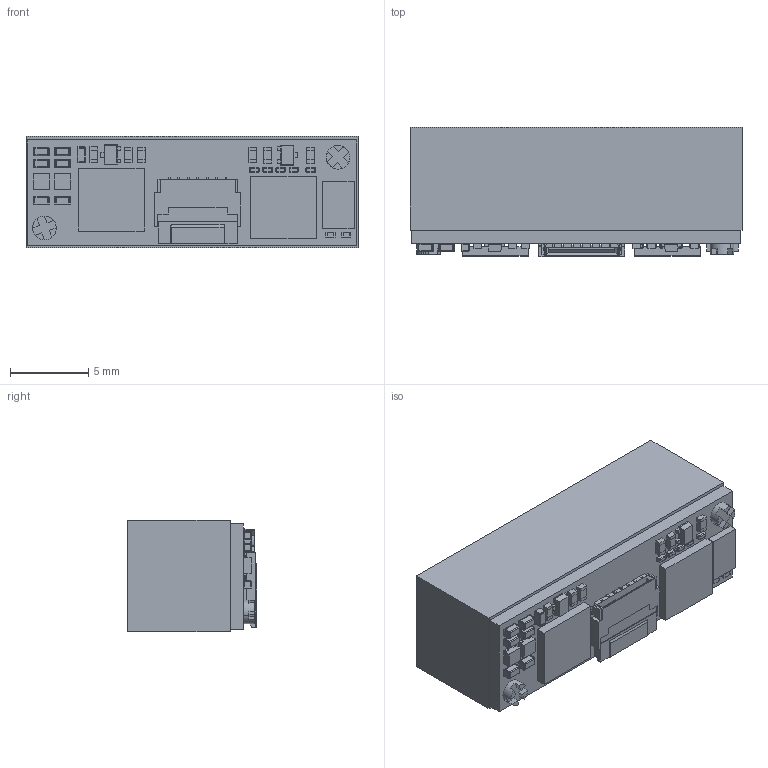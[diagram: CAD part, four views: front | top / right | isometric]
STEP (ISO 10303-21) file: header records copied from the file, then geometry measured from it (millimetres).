
FILE_DESCRIPTION((''),'2;1');
FILE_NAME('ASM0006_ASM','2024-06-24T',('liaolinqing'),(''),'PRO/ENGINEER BY PARAMETRIC TECHNOLOGY CORPORATION, 2008380','PRO/ENGINEER BY PARAMETRIC TECHNOLOGY CORPORATION, 2008380','');
FILE_SCHEMA(('CONFIG_CONTROL_DESIGN'));
Length unit declared in the file: millimetre
Products named in the file (2): BODY_1; ASM0006_ASM
Assembly tree (1 placements, depth 2):
  ASM0006_ASM
    BODY_1
Bounding box: 21.15 x 8.24 x 7.07 mm (x, y, z)
Surface area: 1081.1 mm2 (no closed solid volume)
Topology: 0 solids, 36 shells, 622 faces, 1899 edges, 1258 vertices
Faces by surface type: plane 383, cylinder 179, sphere 47, torus 7, cone 6
Entity records: 20556 total; most frequent: CARTESIAN_POINT 4168, DIRECTION 3401, ORIENTED_EDGE 2992, EDGE_CURVE 1852, VECTOR 1421, LINE 1421, VERTEX_POINT 1258, AXIS2_PLACEMENT_3D 990
